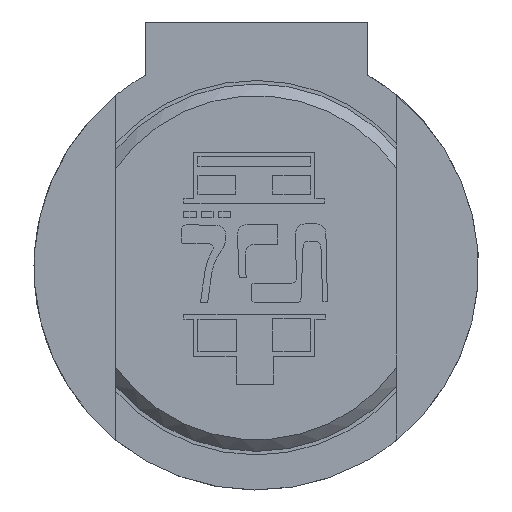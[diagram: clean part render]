
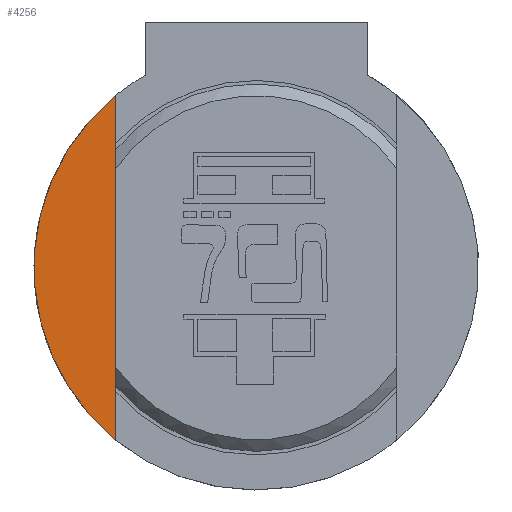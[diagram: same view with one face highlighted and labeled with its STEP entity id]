
A CAD part, left-side view. The second image highlights one B-rep face of the part: STEP entity #4256.
In plain terms, the highlighted planar face has unit normal (-1, 0, 0).
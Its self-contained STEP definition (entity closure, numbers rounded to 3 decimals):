
#3208=CARTESIAN_POINT('Vertex',(-5.,6.,7.365)) ;
#3211=CARTESIAN_POINT('Line Origine',(-5.,6.,0.)) ;
#3215=CARTESIAN_POINT('Vertex',(-5.,6.,-7.365)) ;
#3824=CARTESIAN_POINT('Axis2P3D Location',(-5.,0.,0.)) ;
#4132=CARTESIAN_POINT('Axis2P3D Location',(-5.,0.,0.)) ;
#3212=DIRECTION('Vector Direction',(0.,0.,-1.)) ;
#3825=DIRECTION('Axis2P3D Direction',(-1.,0.,0.)) ;
#4133=DIRECTION('Axis2P3D Direction',(-1.,0.,0.)) ;
#4134=DIRECTION('Axis2P3D XDirection',(0.,-1.,0.)) ;
#3826=AXIS2_PLACEMENT_3D('Circle Axis2P3D',#3824,#3825,$) ;
#4135=AXIS2_PLACEMENT_3D('Plane Axis2P3D',#4132,#4133,#4134) ;
#4253=ORIENTED_EDGE('',*,*,#3217,.T.) ;
#4254=ORIENTED_EDGE('',*,*,#3828,.T.) ;
#3213=VECTOR('Line Direction',#3212,1.) ;
#4256=ADVANCED_FACE('PartBody',(#4255),#4136,.T.) ;
#3827=CIRCLE('generated circle',#3826,9.5) ;
#3217=EDGE_CURVE('',#3216,#3209,#3214,.F.) ;
#3828=EDGE_CURVE('',#3209,#3216,#3827,.T.) ;
#4252=EDGE_LOOP('',(#4253,#4254)) ;
#4255=FACE_OUTER_BOUND('',#4252,.T.) ;
#3214=LINE('Line',#3211,#3213) ;
#4136=PLANE('',#4135) ;
#3209=VERTEX_POINT('',#3208) ;
#3216=VERTEX_POINT('',#3215) ;
